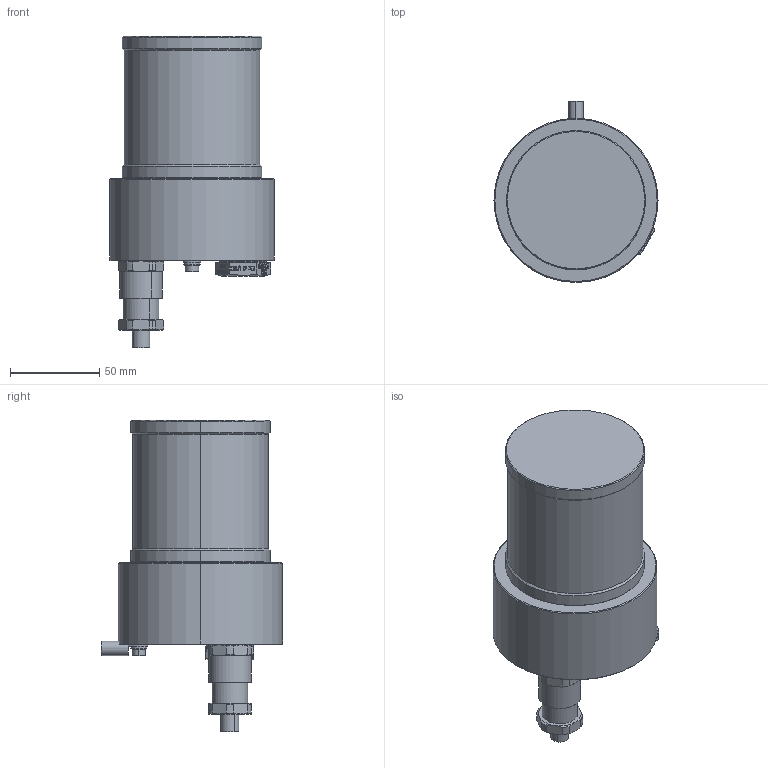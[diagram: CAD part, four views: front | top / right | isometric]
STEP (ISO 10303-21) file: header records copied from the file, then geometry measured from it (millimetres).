
FILE_DESCRIPTION (( 'STEP AP214' ), '1' );
FILE_NAME ('drawing-oc-7-at-800-4nm-hccnnn-y-2aw-n.STEP', '2023-06-23T07:21:41', ( '' ), ( '' ), 'SwSTEP 2.0', 'SolidWorks 2022', '' );
FILE_SCHEMA (( 'AUTOMOTIVE_DESIGN' ));
Length unit declared in the file: millimetre
Products named in the file (1): drawing-oc-7-at-800-4nm-hccnnn-y-2aw-n
Bounding box: 92 x 101.49 x 174.75 mm (x, y, z)
Volume: 392241.1 mm3; surface area: 105001.9 mm2
Topology: 18 solids, 24 shells, 1719 faces, 4439 edges, 2891 vertices
Faces by surface type: plane 929, bspline 440, cylinder 199, cone 143, torus 8
Entity records: 73125 total; most frequent: CARTESIAN_POINT 14999, ORIENTED_EDGE 8798, DIRECTION 6586, EDGE_CURVE 4399, LINE 2922, VECTOR 2922, VERTEX_POINT 2891, EDGE_LOOP 1910
